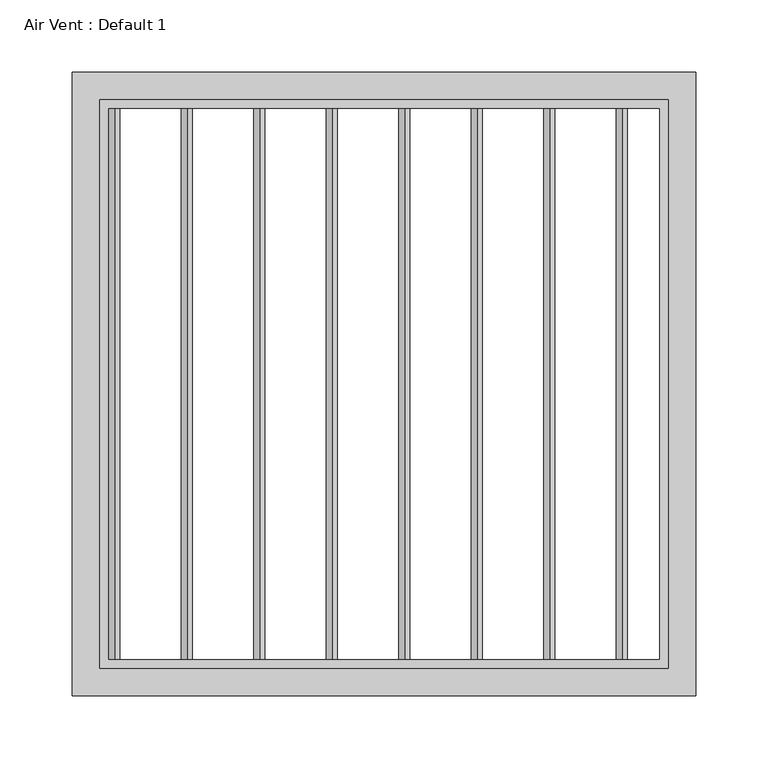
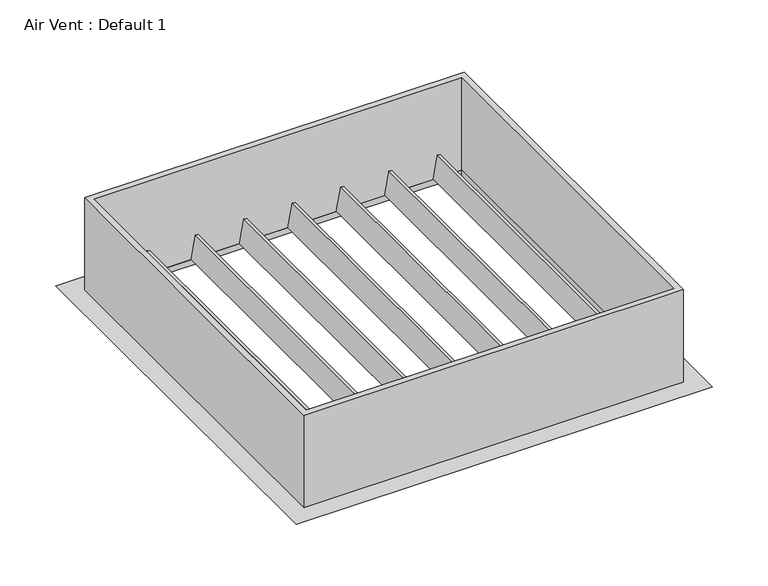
"""IFC4 building model written with IfcOpenShell, lengths in millimetres: proxy geometry, Air Vent : Default 1."""

from ifc_helpers import new_model, si_unit, frame, origin, place, context, project, spatial, polyline, outline, extrude, faceted_brep, source, transform, mapped, element, save


def air_vent_default_1_b0c71248(model_context):
    return source(origin(), model_context, "Body", "SolidModel", [
        extrude(outline(polyline([(0.0, -3.175), (0.0, 0.0), (381.0, 0.0), (381.0, -3.175), (0.0, -3.175)])), frame((-140.2989435, -190.5, 2438.951333), z_axis=(0.1736481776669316, 0.0, 0.9848077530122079), x_axis=(0.0, 1.0, 0.0)), (0.0, 0.0, 1.0), 25.4),
        extrude(outline(polyline([(0.0, -3.175), (0.0, 0.0), (381.0, 0.0), (381.0, -3.175), (0.0, -3.175)])), frame((-90.0978869, -190.5, 2438.951333), z_axis=(0.1736481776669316, 0.0, 0.9848077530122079), x_axis=(0.0, 1.0, 0.0)), (0.0, 0.0, 1.0), 25.4),
        extrude(outline(polyline([(0.0, -3.175), (0.0, 0.0), (381.0, 0.0), (381.0, -3.175), (0.0, -3.175)])), frame((-39.8968304, -190.5, 2438.951333), z_axis=(0.1736481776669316, 0.0, 0.9848077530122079), x_axis=(0.0, 1.0, 0.0)), (0.0, 0.0, 1.0), 25.4),
        extrude(outline(polyline([(0.0, -3.175), (0.0, 0.0), (381.0, 0.0), (381.0, -3.175), (0.0, -3.175)])), frame((10.3042261, -190.5, 2438.951333), z_axis=(0.1736481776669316, 0.0, 0.9848077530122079), x_axis=(0.0, 1.0, 0.0)), (0.0, 0.0, 1.0), 25.4),
        extrude(outline(polyline([(0.0, -3.1750001), (0.0, 0.0), (381.0, 0.0), (381.0, -3.1750001), (0.0, -3.1750001)])), frame((60.5052826, -190.5, 2438.951333), z_axis=(0.1736481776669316, 0.0, 0.9848077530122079), x_axis=(0.0, 1.0, 0.0)), (0.0, 0.0, 1.0), 25.4),
        extrude(outline(polyline([(0.0, -3.175), (0.0, 0.0), (381.0, 0.0), (381.0, -3.175), (0.0, -3.175)])), frame((110.7063392, -190.5, 2438.951333), z_axis=(0.1736481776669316, 0.0, 0.9848077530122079), x_axis=(0.0, 1.0, 0.0)), (0.0, 0.0, 1.0), 25.4),
        extrude(outline(polyline([(0.0, -3.175), (0.0, 0.0), (381.0, 0.0), (381.0, -3.175), (0.0, -3.175)])), frame((160.9073957, -190.5, 2438.951333), z_axis=(0.1736481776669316, 0.0, 0.9848077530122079), x_axis=(0.0, 1.0, 0.0)), (0.0, 0.0, 1.0), 25.4),
        extrude(outline(polyline([(0.0, -3.175), (0.0, 0.0), (381.0, 0.0), (381.0, -3.175), (0.0, -3.175)])), frame((-190.5, -190.5, 2438.951333), z_axis=(0.1736481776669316, 0.0, 0.9848077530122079), x_axis=(0.0, 1.0, 0.0)), (0.0, 0.0, 1.0), 25.4),
        faceted_brep([(190.5, 190.5, 2438.4), (190.5, 190.5, 2432.05), (190.5, -190.5, 2432.05), (190.5, -190.5, 2438.4), (-190.5, -190.5, 2432.05), (-190.5, -190.5, 2438.4), (-190.5, 190.5, 2432.05), (-190.5, 190.5, 2438.4), (203.2, -203.2, 2432.05), (-203.2, -203.2, 2432.05), (-203.2, 203.2, 2432.05), (203.2, 203.2, 2432.05), (215.9, 215.9, 2438.4), (-215.9, 215.9, 2438.4), (-215.9, -215.9, 2438.4), (215.9, -215.9, 2438.4)], [[[0, 1, 2, 3]], [[3, 2, 4, 5]], [[5, 4, 6, 7]], [[8, 9, 10, 11], [1, 6, 4, 2]], [[12, 13, 14, 15], [3, 5, 7, 0]], [[7, 6, 1, 0]], [[11, 12, 15, 8]], [[8, 15, 14, 9]], [[9, 14, 13, 10]], [[10, 13, 12, 11]]]),
        extrude(outline(polyline([(196.85, 196.85), (196.85, -196.85), (-196.85, -196.85), (-196.85, 196.85), (196.85, 196.85)]), holes=[polyline([(190.5, 190.5), (-190.5, 190.5), (-190.5, -190.5), (190.5, -190.5), (190.5, 190.5)])]), frame((0.0, 0.0, 2438.4), z_axis=(0.0, 0.0, 1.0), x_axis=(1.0, 0.0, 0.0)), (0.0, 0.0, 1.0), 101.6),
    ])


if __name__ == "__main__":
    model = new_model("IFC4")
    model_context = context("Model", 3, world=origin())
    ifc_project = project(units=[si_unit("LENGTHUNIT", "METRE", prefix="MILLI")], contexts=[model_context])
    site = spatial("IfcSite", under=ifc_project)
    building = spatial("IfcBuilding", under=site)
    placement = place(None, origin())
    air_vent_default_1_shape = air_vent_default_1_b0c71248(model_context)
    element("IfcBuildingElementProxy", 1, Name="Air Vent : Default 1", ObjectType="Air Vent : Default 1", at=placement, inside=building, context=model_context, shape_type="MappedRepresentation", body=[
        mapped(air_vent_default_1_shape, transform((0.0, 0.0, 0.0), x_axis=(1.0, 0.0, 0.0), y_axis=(0.0, 1.0, 0.0), z_axis=(0.0, 0.0, 1.0))),
    ])
    save(model, "model.ifc")
